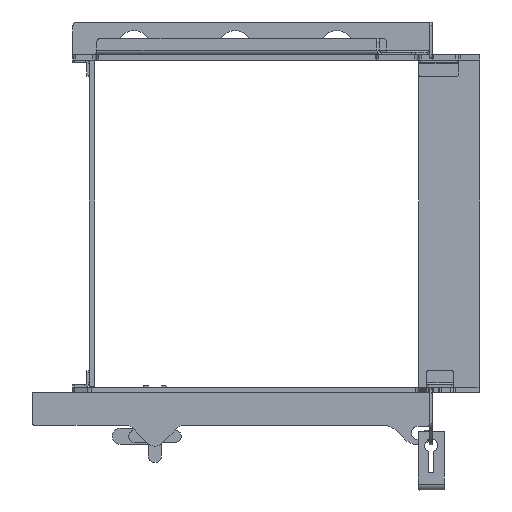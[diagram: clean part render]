
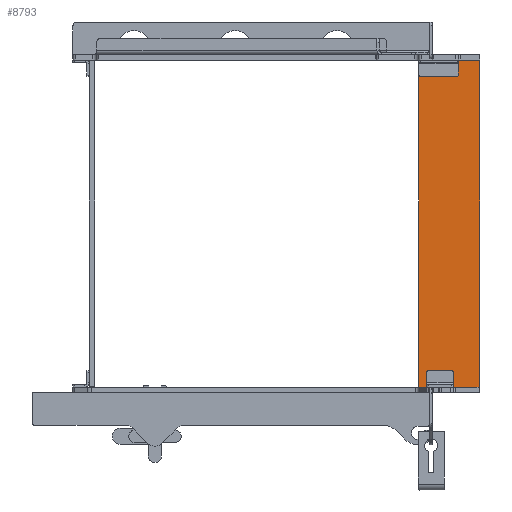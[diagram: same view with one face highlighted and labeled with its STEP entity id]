
A CAD part, left-side view. The second image highlights one B-rep face of the part: STEP entity #8793.
In plain terms, the highlighted planar face has unit normal (-1, 0, 0).
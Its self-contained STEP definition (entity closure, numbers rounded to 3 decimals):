
#340=PLANE('',#9509);
#698=FACE_OUTER_BOUND('',#1196,.T.);
#1196=EDGE_LOOP('',(#6845,#6846,#6847,#6848,#6849,#6850,#6851,#6852));
#1846=LINE('',#13810,#2698);
#1849=LINE('',#13816,#2701);
#1850=LINE('',#13820,#2702);
#1851=LINE('',#13824,#2703);
#2698=VECTOR('',#11159,10.);
#2701=VECTOR('',#11164,10.);
#2702=VECTOR('',#11167,10.);
#2703=VECTOR('',#11170,10.);
#3376=CIRCLE('',#9507,1.);
#3377=CIRCLE('',#9510,1.);
#3378=CIRCLE('',#9511,1.);
#3379=CIRCLE('',#9512,1.);
#3977=VERTEX_POINT('',#13803);
#3978=VERTEX_POINT('',#13805);
#3979=VERTEX_POINT('',#13809);
#3981=VERTEX_POINT('',#13815);
#3982=VERTEX_POINT('',#13817);
#3983=VERTEX_POINT('',#13819);
#3984=VERTEX_POINT('',#13821);
#3985=VERTEX_POINT('',#13823);
#5000=EDGE_CURVE('',#3977,#3978,#3376,.T.);
#5002=EDGE_CURVE('',#3978,#3979,#1846,.T.);
#5005=EDGE_CURVE('',#3981,#3977,#1849,.T.);
#5006=EDGE_CURVE('',#3982,#3981,#3377,.T.);
#5007=EDGE_CURVE('',#3983,#3982,#1850,.T.);
#5008=EDGE_CURVE('',#3984,#3983,#3378,.T.);
#5009=EDGE_CURVE('',#3985,#3984,#1851,.T.);
#5010=EDGE_CURVE('',#3979,#3985,#3379,.T.);
#6845=ORIENTED_EDGE('',*,*,#5000,.F.);
#6846=ORIENTED_EDGE('',*,*,#5005,.F.);
#6847=ORIENTED_EDGE('',*,*,#5006,.F.);
#6848=ORIENTED_EDGE('',*,*,#5007,.F.);
#6849=ORIENTED_EDGE('',*,*,#5008,.F.);
#6850=ORIENTED_EDGE('',*,*,#5009,.F.);
#6851=ORIENTED_EDGE('',*,*,#5010,.F.);
#6852=ORIENTED_EDGE('',*,*,#5002,.F.);
#8793=ADVANCED_FACE('',(#698),#340,.F.);
#9507=AXIS2_PLACEMENT_3D('',#13806,#11154,#11155);
#9509=AXIS2_PLACEMENT_3D('',#13814,#11162,#11163);
#9510=AXIS2_PLACEMENT_3D('',#13818,#11165,#11166);
#9511=AXIS2_PLACEMENT_3D('',#13822,#11168,#11169);
#9512=AXIS2_PLACEMENT_3D('',#13825,#11171,#11172);
#11154=DIRECTION('center_axis',(1.,0.,0.));
#11155=DIRECTION('ref_axis',(0.,0.707,0.707));
#11159=DIRECTION('',(0.,-1.,0.));
#11162=DIRECTION('center_axis',(1.,0.,0.));
#11163=DIRECTION('ref_axis',(0.,-1.,0.));
#11164=DIRECTION('',(0.,0.,1.));
#11165=DIRECTION('center_axis',(1.,0.,0.));
#11166=DIRECTION('ref_axis',(0.,0.707,-0.707));
#11167=DIRECTION('',(0.,1.,0.));
#11168=DIRECTION('center_axis',(1.,0.,0.));
#11169=DIRECTION('ref_axis',(0.,-0.707,-0.707));
#11170=DIRECTION('',(0.,0.,-1.));
#11171=DIRECTION('center_axis',(1.,0.,0.));
#11172=DIRECTION('ref_axis',(0.,-0.707,0.707));
#13803=CARTESIAN_POINT('',(-531.383,-176.355,502.));
#13805=CARTESIAN_POINT('',(-531.383,-177.355,503.));
#13806=CARTESIAN_POINT('Origin',(-531.383,-177.355,502.));
#13809=CARTESIAN_POINT('',(-531.383,-268.355,503.));
#13810=CARTESIAN_POINT('',(-531.383,-176.355,503.));
#13814=CARTESIAN_POINT('Origin',(-531.383,-222.855,253.5));
#13815=CARTESIAN_POINT('',(-531.383,-176.355,5.));
#13816=CARTESIAN_POINT('',(-531.383,-176.355,4.));
#13817=CARTESIAN_POINT('',(-531.383,-177.355,4.));
#13818=CARTESIAN_POINT('Origin',(-531.383,-177.355,5.));
#13819=CARTESIAN_POINT('',(-531.383,-268.355,4.));
#13820=CARTESIAN_POINT('',(-531.383,-269.355,4.));
#13821=CARTESIAN_POINT('',(-531.383,-269.355,5.));
#13822=CARTESIAN_POINT('Origin',(-531.383,-268.355,5.));
#13823=CARTESIAN_POINT('',(-531.383,-269.355,502.));
#13824=CARTESIAN_POINT('',(-531.383,-269.355,503.));
#13825=CARTESIAN_POINT('Origin',(-531.383,-268.355,502.));
